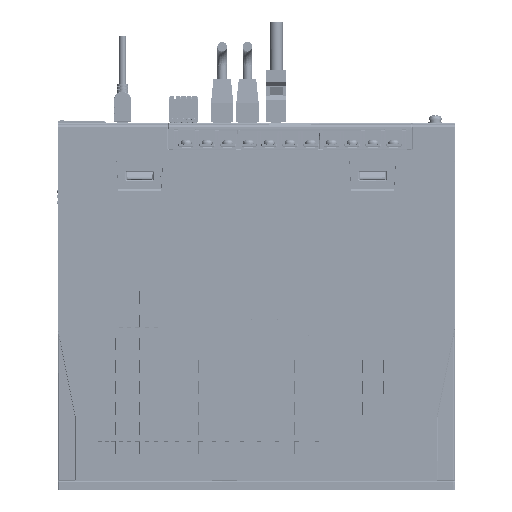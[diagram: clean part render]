
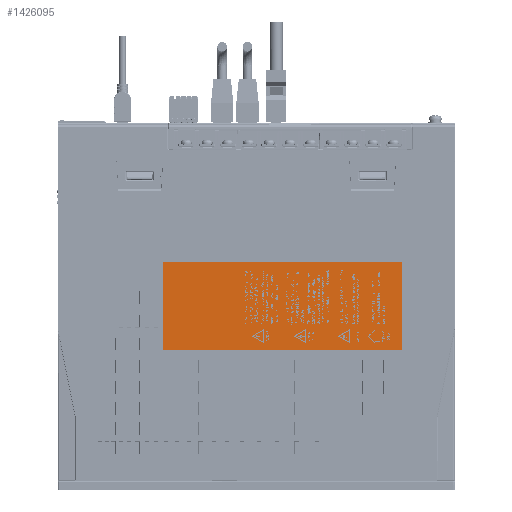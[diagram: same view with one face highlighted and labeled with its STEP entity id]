
A CAD part, left-side view. The second image highlights one B-rep face of the part: STEP entity #1426095.
In plain terms, the highlighted planar face has unit normal (-1, 0, 0).
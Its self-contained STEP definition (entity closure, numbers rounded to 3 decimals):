
#1413898=CARTESIAN_POINT('Vertex',(-38.019,66.485,143.012)) ;
#1413901=CARTESIAN_POINT('Line Origine',(-38.019,-8.466,143.012)) ;
#1413905=CARTESIAN_POINT('Vertex',(-38.019,-83.416,143.012)) ;
#1413925=CARTESIAN_POINT('Line Origine',(-38.019,-83.416,115.512)) ;
#1413929=CARTESIAN_POINT('Vertex',(-38.019,-83.416,88.012)) ;
#1413949=CARTESIAN_POINT('Line Origine',(-38.019,-8.466,88.012)) ;
#1413953=CARTESIAN_POINT('Vertex',(-38.019,66.485,88.012)) ;
#1413973=CARTESIAN_POINT('Line Origine',(-38.019,66.485,115.512)) ;
#1426084=CARTESIAN_POINT('Axis2P3D Location',(-38.019,81.535,148.572)) ;
#1413902=DIRECTION('Vector Direction',(0.,-1.,0.)) ;
#1413926=DIRECTION('Vector Direction',(0.,0.,-1.)) ;
#1413950=DIRECTION('Vector Direction',(0.,1.,0.)) ;
#1413974=DIRECTION('Vector Direction',(0.,0.,1.)) ;
#1426085=DIRECTION('Axis2P3D Direction',(-1.,0.,0.)) ;
#1426086=DIRECTION('Axis2P3D XDirection',(0.,1.,0.)) ;
#1426087=AXIS2_PLACEMENT_3D('Plane Axis2P3D',#1426084,#1426085,#1426086) ;
#1426090=ORIENTED_EDGE('',*,*,#1413977,.F.) ;
#1426091=ORIENTED_EDGE('',*,*,#1413955,.F.) ;
#1426092=ORIENTED_EDGE('',*,*,#1413931,.F.) ;
#1426093=ORIENTED_EDGE('',*,*,#1413907,.F.) ;
#1413903=VECTOR('Line Direction',#1413902,1.) ;
#1413927=VECTOR('Line Direction',#1413926,1.) ;
#1413951=VECTOR('Line Direction',#1413950,1.) ;
#1413975=VECTOR('Line Direction',#1413974,1.) ;
#1426095=ADVANCED_FACE('MANIFOLD_SOLID_BREP #23966',(#1426094),#1426088,.T.) ;
#1413907=EDGE_CURVE('',#1413899,#1413906,#1413904,.T.) ;
#1413931=EDGE_CURVE('',#1413906,#1413930,#1413928,.T.) ;
#1413955=EDGE_CURVE('',#1413930,#1413954,#1413952,.T.) ;
#1413977=EDGE_CURVE('',#1413954,#1413899,#1413976,.T.) ;
#1426089=EDGE_LOOP('',(#1426090,#1426091,#1426092,#1426093)) ;
#1426094=FACE_OUTER_BOUND('',#1426089,.T.) ;
#1413904=LINE('Line',#1413901,#1413903) ;
#1413928=LINE('Line',#1413925,#1413927) ;
#1413952=LINE('Line',#1413949,#1413951) ;
#1413976=LINE('Line',#1413973,#1413975) ;
#1426088=PLANE('Plane',#1426087) ;
#1413899=VERTEX_POINT('',#1413898) ;
#1413906=VERTEX_POINT('',#1413905) ;
#1413930=VERTEX_POINT('',#1413929) ;
#1413954=VERTEX_POINT('',#1413953) ;
